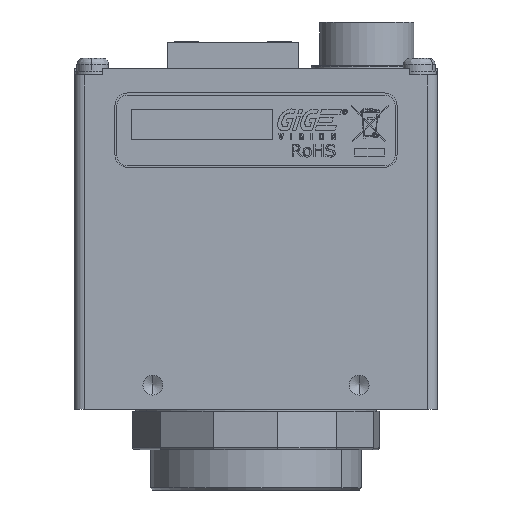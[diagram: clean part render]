
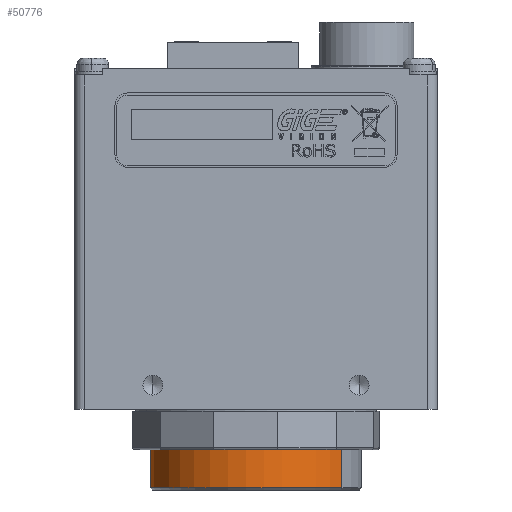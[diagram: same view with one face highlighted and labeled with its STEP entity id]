
A CAD part, front view. The second image highlights one B-rep face of the part: STEP entity #50776.
In plain terms, the highlighted cylindrical face has radius 13.335 mm (diameter 26.67 mm), a partial arc.
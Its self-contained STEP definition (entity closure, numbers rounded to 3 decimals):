
#2055 = LINE ( 'NONE', #132039, #71862 ) ;
#8924 = EDGE_CURVE ( 'NONE', #172617, #71216, #12180, .T. ) ;
#12180 = LINE ( 'NONE', #26729, #149772 ) ;
#15262 = CYLINDRICAL_SURFACE ( 'NONE', #63985, 13.335 ) ;
#20629 = DIRECTION ( 'NONE',  ( 0., 0., 1. ) ) ;
#26729 = CARTESIAN_POINT ( 'NONE',  ( -13.335, 0., 7.214 ) ) ;
#35280 = ORIENTED_EDGE ( 'NONE', *, *, #71617, .T. ) ;
#36647 = DIRECTION ( 'NONE',  ( 1., 0., 0. ) ) ;
#36803 = DIRECTION ( 'NONE',  ( 0., 0., -1. ) ) ;
#36992 = CARTESIAN_POINT ( 'NONE',  ( 0., 0., 13.386 ) ) ;
#46293 = ORIENTED_EDGE ( 'NONE', *, *, #62343, .T. ) ;
#50776 = ADVANCED_FACE ( 'NONE', ( #142290 ), #15262, .T. ) ;
#53728 = CIRCLE ( 'NONE', #107213, 13.335 ) ;
#62343 = EDGE_CURVE ( 'NONE', #161379, #71216, #67884, .T. ) ;
#63985 = AXIS2_PLACEMENT_3D ( 'NONE', #130497, #127253, #126106 ) ;
#67653 = CARTESIAN_POINT ( 'NONE',  ( -13.335, 0., 7.214 ) ) ;
#67884 = CIRCLE ( 'NONE', #152032, 13.335 ) ;
#71216 = VERTEX_POINT ( 'NONE', #113994 ) ;
#71617 = EDGE_CURVE ( 'NONE', #172617, #171155, #53728, .T. ) ;
#71862 = VECTOR ( 'NONE', #145524, 1000. ) ;
#73863 = DIRECTION ( 'NONE',  ( 1., 0., 0. ) ) ;
#74249 = DIRECTION ( 'NONE',  ( 0., 0., 1. ) ) ;
#74452 = CARTESIAN_POINT ( 'NONE',  ( 0., 0., 7.214 ) ) ;
#97099 = EDGE_LOOP ( 'NONE', ( #98993, #35280, #133534, #46293 ) ) ;
#98993 = ORIENTED_EDGE ( 'NONE', *, *, #8924, .F. ) ;
#107213 = AXIS2_PLACEMENT_3D ( 'NONE', #74452, #74249, #73863 ) ;
#113994 = CARTESIAN_POINT ( 'NONE',  ( -13.335, 0., 13.386 ) ) ;
#126106 = DIRECTION ( 'NONE',  ( 1., 0., 0. ) ) ;
#126722 = EDGE_CURVE ( 'NONE', #171155, #161379, #2055, .T. ) ;
#127253 = DIRECTION ( 'NONE',  ( 0., 0., 1. ) ) ;
#128099 = CARTESIAN_POINT ( 'NONE',  ( 13.335, 0., 7.214 ) ) ;
#130497 = CARTESIAN_POINT ( 'NONE',  ( 0., 0., 7.214 ) ) ;
#132039 = CARTESIAN_POINT ( 'NONE',  ( 13.335, 0., 7.214 ) ) ;
#133534 = ORIENTED_EDGE ( 'NONE', *, *, #126722, .T. ) ;
#142290 = FACE_OUTER_BOUND ( 'NONE', #97099, .T. ) ;
#145524 = DIRECTION ( 'NONE',  ( 0., 0., 1. ) ) ;
#149772 = VECTOR ( 'NONE', #20629, 1000. ) ;
#152032 = AXIS2_PLACEMENT_3D ( 'NONE', #36992, #36803, #36647 ) ;
#159184 = CARTESIAN_POINT ( 'NONE',  ( 13.335, 0., 13.386 ) ) ;
#161379 = VERTEX_POINT ( 'NONE', #159184 ) ;
#171155 = VERTEX_POINT ( 'NONE', #128099 ) ;
#172617 = VERTEX_POINT ( 'NONE', #67653 ) ;
